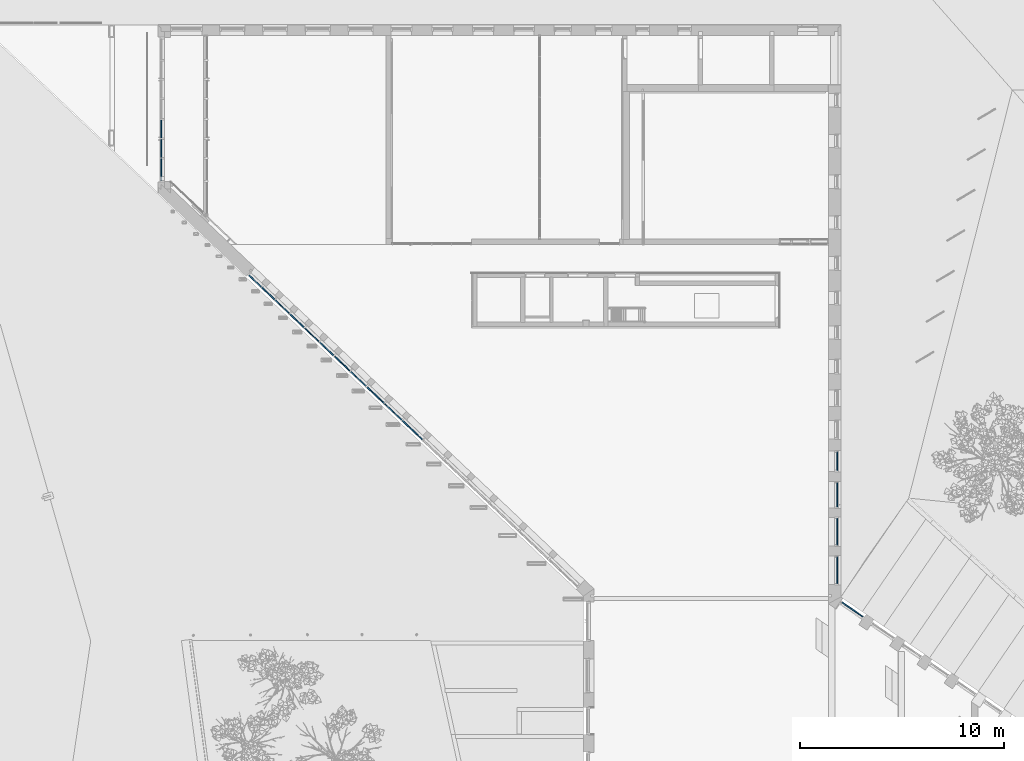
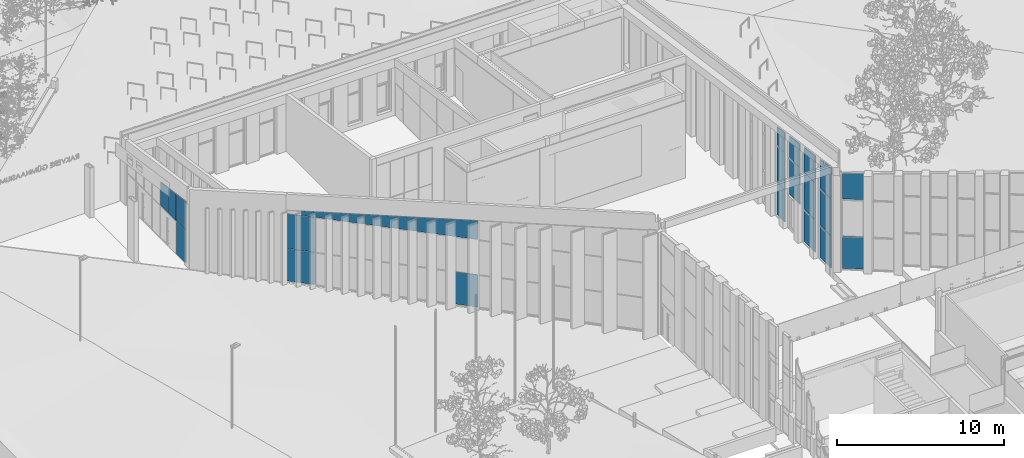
# One storey, part 100 of 246: 32 plates, 7 elements without a shape of their own.
"""IFC2X3 building model written with IfcOpenShell, lengths in millimetres."""

from ifc_helpers import new_model, entity, si_unit, converted_unit, derived_unit, money_unit, direction, frame, origin_with_axes, place, context, subcontext, project, spatial, faceted_brep, material, type_object, element, aggregate, save


model = new_model("IFC2X3")

# Units and contexts
model_context = context("Model", 3, precision=0.01, world=origin_with_axes(), true_north=direction((0.0, 1.0)))
body_context = subcontext(model_context, "Body", "Model", "MODEL_VIEW")
ifc_project = project(units=[si_unit("LENGTHUNIT", "METRE", prefix="MILLI"), si_unit("AREAUNIT", "SQUARE_METRE"), si_unit("VOLUMEUNIT", "CUBIC_METRE"), converted_unit("PLANEANGLEUNIT", "DEGREE", entity("IfcPlaneAngleMeasure", 0.0174532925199), si_unit("PLANEANGLEUNIT", "RADIAN"), dimensions=[0, 0, 0, 0, 0, 0, 0]), si_unit("SOLIDANGLEUNIT", "STERADIAN"), money_unit("EUR"), converted_unit("TIMEUNIT", "Year", entity("IfcTimeMeasure", 31556926.0), si_unit("TIMEUNIT", "SECOND"), dimensions=[0, 0, 1, 0, 0, 0, 0]), si_unit("MASSUNIT", "GRAM", prefix="KILO"), si_unit("THERMODYNAMICTEMPERATUREUNIT", "DEGREE_CELSIUS"), si_unit("LUMINOUSINTENSITYUNIT", "LUMEN"), si_unit("ENERGYUNIT", "JOULE", prefix="MEGA"), derived_unit("THERMALCONDUCTANCEUNIT", [(si_unit("POWERUNIT", "WATT"), 1), (si_unit("LENGTHUNIT", "METRE"), -1), (si_unit("THERMODYNAMICTEMPERATUREUNIT", "KELVIN"), -1)]), derived_unit("SPECIFICHEATCAPACITYUNIT", [(si_unit("ENERGYUNIT", "JOULE"), 1), (si_unit("MASSUNIT", "GRAM", prefix="KILO"), -1), (si_unit("THERMODYNAMICTEMPERATUREUNIT", "KELVIN"), -1)]), derived_unit("MASSDENSITYUNIT", [(si_unit("MASSUNIT", "GRAM", prefix="KILO"), 1), (si_unit("VOLUMEUNIT", "CUBIC_METRE"), -1)])], contexts=[model_context])

# Site, building, storey
site_placement = place(None, origin_with_axes())
site = spatial("IfcSite", under=ifc_project, at=site_placement, Name="L.Koidula tn 11b", CompositionType="ELEMENT")
building_placement = place(site_placement, origin_with_axes())
building = spatial("IfcBuilding", under=site, at=building_placement, Name="Rakvere Riigigümnaasium", CompositionType="ELEMENT")
storey_placement = place(building_placement, origin_with_axes())
storey = spatial("IfcBuildingStorey", under=building, at=storey_placement, Name="1.korrus 0,00", CompositionType="ELEMENT", Elevation=0.0)

# Curtain wall, plates
curtain_wall_type = type_object("IfcCurtainWallType", Name="Curtain Wall Type", PredefinedType="NOTDEFINED")
curtain_wall_1_placement = place(storey_placement, frame((33997.0353268, 45217.6604975, 0.0), z_axis=(0.0, 0.0, 1.0), x_axis=(1.0, 0.0, 0.0)))
curtain_wall_1 = element("IfcCurtainWall", 1, at=curtain_wall_1_placement, inside=storey, type_object=curtain_wall_type, Name="KLF-02")
ifc_material = material(Name="Klaaspakett 3x")
plate_type_1 = type_object("IfcPlateType", Name="Distinct Panel 976 x 802 x 54", PredefinedType="CURTAIN_PANEL")
plate_1_placement = place(curtain_wall_1_placement, frame((-11615.3636669, 11003.7869339, 5351.59965319), z_axis=(0.0, 0.0, 1.0), x_axis=(0.725960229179, -0.687736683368, 0.0)))
plate_1 = element("IfcPlate", 2, at=plate_1_placement, type_object=plate_type_1, material=ifc_material, Name="KLF-25-Klaasid", ObjectType="CURTAIN_PANEL", context=body_context, shape_type="Brep", body=[
    faceted_brep([(487.99999404, 27.0, 412.535720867), (487.99999404, -27.0, 412.535720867), (487.99999404, -27.0, -389.599334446), (487.99999404, 27.0, -389.599334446), (-487.99999404, 27.0, 316.30413872), (-487.99999404, -27.0, 316.30413872), (-487.99999404, -27.0, -389.599334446), (-487.99999404, 27.0, -389.599334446)], [[[0, 1, 2, 3]], [[4, 5, 1, 0]], [[1, 5, 6, 2]], [[3, 2, 6, 7]], [[0, 3, 7, 4]], [[7, 6, 5, 4]]]),
])
plate_type_2 = type_object("IfcPlateType", Name="Distinct Panel 1376 x 2351 x 54", PredefinedType="CURTAIN_PANEL")
plate_2_placement = place(curtain_wall_1_placement, frame((-7404.79433762, 7014.91417036, 1200.00015639), z_axis=(0.0, 0.0, 1.0), x_axis=(0.725960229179, -0.687736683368, 0.0)))
plate_2 = element("IfcPlate", 3, at=plate_2_placement, type_object=plate_type_2, material=ifc_material, Name="KLF-09-Klaasid", ObjectType="CURTAIN_PANEL", context=body_context, shape_type="Brep", body=[
    faceted_brep([(-688.00000208, 27.0, 1188.00015483), (-688.00000208, -27.0, 1188.00015483), (687.999998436, -27.0, 1188.00015483), (687.999998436, 27.0, 1188.00015483), (-688.00000208, 27.0, -1163.00015157), (-688.00000208, -27.0, -1163.00015157), (687.999998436, -27.0, -1163.00015157), (687.999998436, 27.0, -1163.00015157)], [[[0, 1, 2, 3]], [[4, 5, 1, 0]], [[1, 5, 6, 2]], [[3, 2, 6, 7]], [[0, 3, 7, 4]], [[7, 6, 5, 4]]]),
])
plate_type_3 = type_object("IfcPlateType", Name="Distinct Panel 876 x 2526 x 54", PredefinedType="CURTAIN_PANEL")
plate_3_placement = place(curtain_wall_1_placement, frame((-14482.9065721, 13720.3468332, 3675.00031279), z_axis=(0.0, 0.0, 1.0), x_axis=(0.725960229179, -0.687736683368, 0.0)))
plate_3 = element("IfcPlate", 4, at=plate_3_placement, type_object=plate_type_3, material=ifc_material, Name="KLF-52-Klaasid", ObjectType="CURTAIN_PANEL", context=body_context, shape_type="Brep", body=[
    faceted_brep([(-438.000011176, 27.0, 1263.00000447), (-438.000011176, -27.0, 1263.00000447), (438.00000447, -27.0, 1263.00000447), (438.00000447, 27.0, 1263.00000447), (-438.000011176, 27.0, -1263.00000447), (-438.000011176, -27.0, -1263.00000447), (438.00000447, -27.0, -1263.00000447), (438.00000447, 27.0, -1263.00000447)], [[[0, 1, 2, 3]], [[4, 5, 1, 0]], [[1, 5, 6, 2]], [[3, 2, 6, 7]], [[0, 3, 7, 4]], [[7, 6, 5, 4]]]),
])
plate_type_4 = type_object("IfcPlateType", Name="Distinct Panel 876 x 2351 x 54", PredefinedType="CURTAIN_PANEL")
plate_4_placement = place(curtain_wall_1_placement, frame((-14482.9065721, 13720.3468332, 1200.00015639), z_axis=(0.0, 0.0, 1.0), x_axis=(0.725960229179, -0.687736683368, 0.0)))
plate_4 = element("IfcPlate", 5, at=plate_4_placement, type_object=plate_type_4, material=ifc_material, Name="KLF-51-Klaasid", ObjectType="CURTAIN_PANEL", context=body_context, shape_type="Brep", body=[
    faceted_brep([(-438.000008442, 27.0, 1188.00015483), (-438.000008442, -27.0, 1188.00015483), (437.999998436, -27.0, 1188.00015483), (437.999998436, 27.0, 1188.00015483), (-438.000008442, 27.0, -1163.00015157), (-438.000008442, -27.0, -1163.00015157), (437.999998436, -27.0, -1163.00015157), (437.999998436, 27.0, -1163.00015157)], [[[0, 1, 2, 3]], [[4, 5, 1, 0]], [[1, 5, 6, 2]], [[3, 2, 6, 7]], [[0, 3, 7, 4]], [[7, 6, 5, 4]]]),
])
plate_type_5 = type_object("IfcPlateType", Name="Distinct Panel 851 x 2526 x 54", PredefinedType="CURTAIN_PANEL")
plate_5_placement = place(curtain_wall_1_placement, frame((-15136.2986508, 14339.3362531, 3675.00031279), z_axis=(0.0, 0.0, 1.0), x_axis=(0.725960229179, -0.687736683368, 0.0)))
plate_5 = element("IfcPlate", 6, at=plate_5_placement, type_object=plate_type_5, material=ifc_material, Name="KLF-02-Klaasid", ObjectType="CURTAIN_PANEL", context=body_context, shape_type="Brep", body=[
    faceted_brep([(-413.038388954, 27.0, 1263.00000447), (-413.038388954, -27.0, 1263.00000447), (438.038398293, -27.0, 1263.00000447), (438.038398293, 27.0, 1263.00000447), (-413.038388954, 27.0, -1263.00000447), (-413.038388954, -27.0, -1263.00000447), (438.038398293, -27.0, -1263.00000447), (438.038398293, 27.0, -1263.00000447)], [[[0, 1, 2, 3]], [[4, 5, 1, 0]], [[1, 5, 6, 2]], [[3, 2, 6, 7]], [[0, 3, 7, 4]], [[7, 6, 5, 4]]]),
])
plate_type_6 = type_object("IfcPlateType", Name="Distinct Panel 851 x 2351 x 54", PredefinedType="CURTAIN_PANEL")
plate_6_placement = place(curtain_wall_1_placement, frame((-15136.2986508, 14339.3362531, 1200.00015639), z_axis=(0.0, 0.0, 1.0), x_axis=(0.725960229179, -0.687736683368, 0.0)))
plate_6 = element("IfcPlate", 7, at=plate_6_placement, type_object=plate_type_6, material=ifc_material, Name="KLF-48-Klaasid", ObjectType="CURTAIN_PANEL", context=body_context, shape_type="Brep", body=[
    faceted_brep([(-413.038394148, 27.0, 1188.00015483), (-413.038394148, -27.0, 1188.00015483), (438.038392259, -27.0, 1188.00015483), (438.038392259, 27.0, 1188.00015483), (-413.038394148, 27.0, -1163.00015157), (-413.038394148, -27.0, -1163.00015157), (438.038392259, -27.0, -1163.00015157), (438.038392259, 27.0, -1163.00015157)], [[[0, 1, 2, 3]], [[4, 5, 1, 0]], [[1, 5, 6, 2]], [[3, 2, 6, 7]], [[0, 3, 7, 4]], [[7, 6, 5, 4]]]),
])
plate_type_7 = type_object("IfcPlateType", Name="Distinct Panel 976 x 704 x 54", PredefinedType="CURTAIN_PANEL")
plate_7_placement = place(curtain_wall_1_placement, frame((-12341.323896, 11691.5236173, 5302.30069099), z_axis=(0.0, 0.0, 1.0), x_axis=(0.725960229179, -0.687736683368, 0.0)))
plate_7 = element("IfcPlate", 8, at=plate_7_placement, type_object=plate_type_7, material=ifc_material, Name="KLF-45-Klaasid", ObjectType="CURTAIN_PANEL", context=body_context, shape_type="Brep", body=[
    faceted_brep([(487.99999404, 27.0, 363.23676447), (487.99999404, -27.0, 363.23676447), (487.99999404, -27.0, -340.300372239), (487.99999404, 27.0, -340.300372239), (-487.99999404, 27.0, 267.005182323), (-487.99999404, -27.0, 267.005182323), (-487.99999404, -27.0, -340.300372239), (-487.99999404, 27.0, -340.300372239)], [[[0, 1, 2, 3]], [[4, 5, 1, 0]], [[1, 5, 6, 2]], [[3, 2, 6, 7]], [[0, 3, 7, 4]], [[7, 6, 5, 4]]]),
])
plate_type_8 = type_object("IfcPlateType", Name="Distinct Panel 976 x 605 x 54", PredefinedType="CURTAIN_PANEL")
plate_8_placement = place(curtain_wall_1_placement, frame((-13067.2841252, 12379.2603006, 5253.00172878), z_axis=(0.0, 0.0, 1.0), x_axis=(0.725960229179, -0.687736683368, 0.0)))
plate_8 = element("IfcPlate", 9, at=plate_8_placement, type_object=plate_type_8, material=ifc_material, Name="KLF-03-Klaasid", ObjectType="CURTAIN_PANEL", context=body_context, shape_type="Brep", body=[
    faceted_brep([(487.99999404, 27.0, 313.937793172), (487.99999404, -27.0, 313.937793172), (487.99999404, -27.0, -291.001410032), (487.99999404, 27.0, -291.001410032), (-487.99999404, 27.0, 217.706211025), (-487.99999404, -27.0, 217.706211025), (-487.99999404, -27.0, -291.001410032), (-487.99999404, 27.0, -291.001410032)], [[[0, 1, 2, 3]], [[4, 5, 1, 0]], [[1, 5, 6, 2]], [[3, 2, 6, 7]], [[0, 3, 7, 4]], [[7, 6, 5, 4]]]),
])
plate_type_9 = type_object("IfcPlateType", Name="Distinct Panel 976 x 506 x 54", PredefinedType="CURTAIN_PANEL")
plate_9_placement = place(curtain_wall_1_placement, frame((-13793.2443544, 13066.996984, 5203.70276657), z_axis=(0.0, 0.0, 1.0), x_axis=(0.725960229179, -0.687736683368, 0.0)))
plate_9 = element("IfcPlate", 10, at=plate_9_placement, type_object=plate_type_9, material=ifc_material, Name="KLF-06-Klaasid", ObjectType="CURTAIN_PANEL", context=body_context, shape_type="Brep", body=[
    faceted_brep([(487.99999404, 27.0, 264.638836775), (487.99999404, -27.0, 264.638836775), (487.99999404, -27.0, -241.702447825), (487.99999404, 27.0, -241.702447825), (-487.99999404, 27.0, 168.407254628), (-487.99999404, -27.0, 168.407254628), (-487.99999404, -27.0, -241.702447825), (-487.99999404, 27.0, -241.702447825)], [[[0, 1, 2, 3]], [[4, 5, 1, 0]], [[1, 5, 6, 2]], [[3, 2, 6, 7]], [[0, 3, 7, 4]], [[7, 6, 5, 4]]]),
])
plate_type_10 = type_object("IfcPlateType", Name="Distinct Panel 876 x 408 x 54", PredefinedType="CURTAIN_PANEL")
plate_10_placement = place(curtain_wall_1_placement, frame((-14482.9065721, 13720.3468332, 5156.86875247), z_axis=(0.0, 0.0, 1.0), x_axis=(0.725960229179, -0.687736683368, 0.0)))
plate_10 = element("IfcPlate", 11, at=plate_10_placement, type_object=plate_type_10, material=ifc_material, Name="KLF-05-Klaasid", ObjectType="CURTAIN_PANEL", context=body_context, shape_type="Brep", body=[
    faceted_brep([(438.0, 27.0, 212.874912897), (438.0, -27.0, 212.874912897), (438.0, -27.0, -194.868439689), (438.0, 27.0, -194.868439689), (-438.0, 27.0, 126.503140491), (-438.0, -27.0, 126.503140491), (-438.0, -27.0, -194.868439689), (-438.0, 27.0, -194.868439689)], [[[0, 1, 2, 3]], [[4, 5, 1, 0]], [[1, 5, 6, 2]], [[3, 2, 6, 7]], [[0, 3, 7, 4]], [[7, 6, 5, 4]]]),
])
plate_type_11 = type_object("IfcPlateType", Name="Distinct Panel 1176 x 1137 x 54", PredefinedType="CURTAIN_PANEL")
plate_11_placement = place(curtain_wall_1_placement, frame((-9219.69491057, 8734.25587878, 5514.28622848), z_axis=(0.0, 0.0, 1.0), x_axis=(0.725960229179, -0.687736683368, 0.0)))
plate_11 = element("IfcPlate", 12, at=plate_11_placement, type_object=plate_type_11, material=ifc_material, Name="KLF-18-Klaasid", ObjectType="CURTAIN_PANEL", context=body_context, shape_type="Brep", body=[
    faceted_brep([(588.0, 27.0, 585.082083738), (588.0, -27.0, 585.082083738), (588.0, -27.0, -552.28591569), (588.0, 27.0, -552.28591569), (-588.0, 27.0, 469.13091787), (-588.0, -27.0, 469.13091787), (-588.0, -27.0, -552.28591569), (-588.0, 27.0, -552.28591569)], [[[0, 1, 2, 3]], [[4, 5, 1, 0]], [[1, 5, 6, 2]], [[3, 2, 6, 7]], [[0, 3, 7, 4]], [[7, 6, 5, 4]]]),
])
plate_type_12 = type_object("IfcPlateType", Name="Distinct Panel 1076 x 1019 x 54", PredefinedType="CURTAIN_PANEL")
plate_12_placement = place(curtain_wall_1_placement, frame((-10054.5491741, 9525.15306465, 5457.59242194), z_axis=(0.0, 0.0, 1.0), x_axis=(0.725960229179, -0.687736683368, 0.0)))
plate_12 = element("IfcPlate", 13, at=plate_12_placement, type_object=plate_type_12, material=ifc_material, Name="KLF-15-Klaasid", ObjectType="CURTAIN_PANEL", context=body_context, shape_type="Brep", body=[
    faceted_brep([(538.0, 27.0, 523.45837603), (538.0, -27.0, 523.45837603), (538.0, -27.0, -495.592109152), (538.0, 27.0, -495.592109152), (-538.0, 27.0, 417.367010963), (-538.0, -27.0, 417.367010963), (-538.0, -27.0, -495.592109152), (-538.0, 27.0, -495.592109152)], [[[0, 1, 2, 3]], [[4, 5, 1, 0]], [[1, 5, 6, 2]], [[3, 2, 6, 7]], [[0, 3, 7, 4]], [[7, 6, 5, 4]]]),
])
plate_type_13 = type_object("IfcPlateType", Name="Distinct Panel 1076 x 911 x 54", PredefinedType="CURTAIN_PANEL")
plate_13_placement = place(curtain_wall_1_placement, frame((-10853.1054262, 10281.6634164, 5403.36356351), z_axis=(0.0, 0.0, 1.0), x_axis=(0.725960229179, -0.687736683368, 0.0)))
plate_13 = element("IfcPlate", 14, at=plate_13_placement, type_object=plate_type_13, material=ifc_material, Name="KLF-12-Klaasid", ObjectType="CURTAIN_PANEL", context=body_context, shape_type="Brep", body=[
    faceted_brep([(538.0, 27.0, 469.229523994), (538.0, -27.0, 469.229523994), (538.0, -27.0, -441.363250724), (538.0, 27.0, -441.363250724), (-538.0, 27.0, 363.138158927), (-538.0, -27.0, 363.138158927), (-538.0, -27.0, -441.363250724), (-538.0, 27.0, -441.363250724)], [[[0, 1, 2, 3]], [[4, 5, 1, 0]], [[1, 5, 6, 2]], [[3, 2, 6, 7]], [[0, 3, 7, 4]], [[7, 6, 5, 4]]]),
])
plate_type_14 = type_object("IfcPlateType", Name="Distinct Panel 1176 x 1256 x 54", PredefinedType="CURTAIN_PANEL")
plate_14_placement = place(curtain_wall_1_placement, frame((-8348.54263556, 7908.97185874, 5573.44498312), z_axis=(0.0, 0.0, 1.0), x_axis=(0.725960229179, -0.687736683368, 0.0)))
plate_14 = element("IfcPlate", 15, at=plate_14_placement, type_object=plate_type_14, material=ifc_material, Name="KLF-21-Klaasid", ObjectType="CURTAIN_PANEL", context=body_context, shape_type="Brep", body=[
    faceted_brep([(588.000005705, 27.0, 644.24083555), (588.000005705, -27.0, 644.24083555), (588.000005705, -27.0, -611.444676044), (588.000005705, 27.0, -611.444676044), (-587.999999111, 27.0, 528.289662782), (-587.999999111, -27.0, 528.289662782), (-587.999999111, -27.0, -611.444676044), (-587.999999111, 27.0, -611.444676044)], [[[0, 1, 2, 3]], [[4, 5, 1, 0]], [[1, 5, 6, 2]], [[3, 2, 6, 7]], [[0, 3, 7, 4]], [[7, 6, 5, 4]]]),
])
plate_type_15 = type_object("IfcPlateType", Name="Distinct Panel 1376 x 1394 x 54", PredefinedType="CURTAIN_PANEL")
plate_15_placement = place(curtain_wall_1_placement, frame((-7404.79433762, 7014.91417036, 5637.53363399), z_axis=(0.0, 0.0, 1.0), x_axis=(0.725960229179, -0.687736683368, 0.0)))
plate_15 = element("IfcPlate", 16, at=plate_15_placement, type_object=plate_type_15, material=ifc_material, Name="KLF-24-Klaasid", ObjectType="CURTAIN_PANEL", context=body_context, shape_type="Brep", body=[
    faceted_brep([(688.000005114, 27.0, 718.189272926), (688.000005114, -27.0, 718.189272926), (688.000005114, -27.0, -675.533326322), (688.000005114, 27.0, -675.533326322), (-687.999996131, 27.0, 582.518538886), (-687.999996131, -27.0, 582.518538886), (-687.999996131, -27.0, -675.533326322), (-687.999996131, 27.0, -675.533326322)], [[[0, 1, 2, 3]], [[4, 5, 1, 0]], [[1, 5, 6, 2]], [[3, 2, 6, 7]], [[0, 3, 7, 4]], [[7, 6, 5, 4]]]),
])
aggregate(curtain_wall_1, [plate_1, plate_2, plate_3, plate_4, plate_5, plate_6, plate_7, plate_8, plate_9, plate_10, plate_11, plate_12, plate_13, plate_14, plate_15])

curtain_wall_2_placement = place(storey_placement, frame((48188.9005026, 43426.6609741, 465.0), z_axis=(0.0, 0.0, 1.0), x_axis=(1.0, 0.0, 0.0)))
curtain_wall_2 = element("IfcCurtainWall", 17, at=curtain_wall_2_placement, inside=storey, type_object=curtain_wall_type, Name="KLF-06-29")
plate_type_16 = type_object("IfcPlateType", Name="Distinct Panel 1266 x 1892 x 54", PredefinedType="CURTAIN_PANEL")
plate_16_placement = place(curtain_wall_2_placement, frame((3.81169584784e-05, -2.61435388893e-05, 6089.41930168), z_axis=(0.0, 0.0, 1.0), x_axis=(-0.824666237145, 0.565619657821, 0.0)))
plate_16 = element("IfcPlate", 18, at=plate_16_placement, type_object=plate_type_16, material=ifc_material, Name="KLF-06-29-Klaasid", ObjectType="CURTAIN_PANEL", context=body_context, shape_type="Brep", body=[
    faceted_brep([(-632.999922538, 27.0, 989.977350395), (-632.999922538, -27.0, 989.977350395), (632.999905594, -27.0, 914.730660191), (632.999905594, 27.0, 914.730660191), (-632.999922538, 27.0, -977.419288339), (-632.999922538, -27.0, -977.419288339), (632.999935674, -27.0, -977.419288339), (632.999935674, 27.0, -977.419288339)], [[[0, 1, 2, 3]], [[4, 5, 1, 0]], [[1, 5, 6, 2]], [[3, 2, 6, 7]], [[0, 3, 7, 4]], [[7, 6, 5, 4]]]),
])
plate_type_17 = type_object("IfcPlateType", Name="Distinct Panel 1266 x 2351 x 54", PredefinedType="CURTAIN_PANEL")
plate_17_placement = place(curtain_wall_2_placement, frame((-4.7989736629e-05, 3.29150608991e-05, 1200.0), z_axis=(0.0, 0.0, 1.0), x_axis=(-0.824666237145, 0.565619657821, 0.0)))
plate_17 = element("IfcPlate", 19, at=plate_17_placement, type_object=plate_type_17, material=ifc_material, Name="KLF-06-29-Klaasid", ObjectType="CURTAIN_PANEL", context=body_context, shape_type="Brep", body=[
    faceted_brep([(-632.999989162, 27.0, 1188.0), (-632.999989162, -27.0, 1188.0), (632.999939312, -27.0, 1188.0), (632.999939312, 27.0, 1188.0), (-632.999989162, 27.0, -1163.0), (-632.999989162, -27.0, -1163.0), (633.000046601, -27.0, -1163.0), (633.000046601, 27.0, -1163.0)], [[[0, 1, 2, 3]], [[4, 5, 1, 0]], [[1, 5, 6, 2]], [[3, 2, 6, 7]], [[0, 3, 7, 4]], [[7, 6, 5, 4]]]),
])
aggregate(curtain_wall_2, [plate_16, plate_17])

# Curtain wall, plate
curtain_wall_3_placement = place(storey_placement, frame((47434.0002355, 45350.4555374, 5.21984029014), z_axis=(0.0, 0.0, 1.0), x_axis=(1.0, 0.0, 0.0)))
curtain_wall_3 = element("IfcCurtainWall", 20, at=curtain_wall_3_placement, inside=storey, type_object=curtain_wall_type, Name="KLF-07-01")
plate_type_18 = type_object("IfcPlateType", Name="Distinct Panel 1326 x 2346 x 54", PredefinedType="CURTAIN_PANEL")
plate_18_placement = place(curtain_wall_3_placement, frame((0.0, 0.0, 1197.39007126), z_axis=(0.0, 0.0, 1.0), x_axis=(3.45704454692e-07, 1.0, 0.0)))
plate_18 = element("IfcPlate", 21, at=plate_18_placement, type_object=plate_type_18, material=ifc_material, Name="KLF-07-01-Klaasid", ObjectType="CURTAIN_PANEL", context=body_context, shape_type="Brep", body=[
    faceted_brep([(-662.99996856, 27.0, 1185.39010181), (-662.99996856, -27.0, 1185.39010181), (663.000001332, -27.0, 1185.39010181), (663.000001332, 27.0, 1185.39010181), (-663.00003993, 27.0, -1160.39009096), (-663.00003993, -27.0, -1160.39009096), (663.000001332, -27.0, -1160.39009096), (663.000001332, 27.0, -1160.39009096)], [[[0, 1, 2, 3]], [[4, 5, 1, 0]], [[1, 5, 6, 2]], [[3, 2, 6, 7]], [[0, 3, 7, 4]], [[7, 6, 5, 4]]]),
])

curtain_wall_4_placement = place(storey_placement, frame((47434.0004775, 47250.4555065, 5.1807707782), z_axis=(0.0, 0.0, 1.0), x_axis=(1.0, 0.0, 0.0)))
curtain_wall_4 = element("IfcCurtainWall", 22, at=curtain_wall_4_placement, inside=storey, type_object=curtain_wall_type, Name="KLF-07-02")
plate_19_placement = place(curtain_wall_4_placement, frame((0.0, 1.68795182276e-05, 1197.40962901), z_axis=(0.0, 0.0, 1.0), x_axis=(0.0, 1.0, 0.0)))
plate_19 = element("IfcPlate", 23, at=plate_19_placement, type_object=plate_type_18, material=ifc_material, Name="KLF-07-02-Klaasid", ObjectType="CURTAIN_PANEL", context=body_context, shape_type="Brep", body=[
    faceted_brep([(-663.000011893, 27.0, 1185.40959618), (-663.000011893, -27.0, 1185.40959618), (663.000005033, -27.0, 1185.40959618), (663.000005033, 27.0, 1185.40959618), (-662.999976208, 27.0, -1160.40965864), (-662.999976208, -27.0, -1160.40965864), (663.000005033, -27.0, -1160.40955158), (663.000005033, 27.0, -1160.40955158)], [[[0, 1, 2, 3]], [[4, 5, 1, 0]], [[1, 5, 6, 2]], [[3, 2, 6, 7]], [[0, 3, 7, 4]], [[7, 6, 5, 4]]]),
])

# Plate
plate_type_19 = type_object("IfcPlateType", Name="Distinct Panel 1326 x 2068 x 54", PredefinedType="CURTAIN_PANEL")
plate_20_placement = place(curtain_wall_3_placement, frame((0.0, -2.86842478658e-05, 6200.41915791), z_axis=(0.0, 0.0, 1.0), x_axis=(3.45704454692e-07, 1.0, 0.0)))
plate_20 = element("IfcPlate", 24, at=plate_20_placement, type_object=plate_type_19, material=ifc_material, Name="KLF-07-01-Klaasid", ObjectType="CURTAIN_PANEL", context=body_context, shape_type="Brep", body=[
    faceted_brep([(-662.999925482, 27.0, 1162.65954438), (-662.999925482, -27.0, 1162.65954438), (662.999904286, -27.0, 973.872249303), (662.999904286, 27.0, 973.872249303), (-662.999925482, 27.0, -1093.63901268), (-662.999925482, -27.0, -1093.63901268), (662.999938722, -27.0, -1093.63901268), (662.999938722, 27.0, -1093.63901268)], [[[0, 1, 2, 3]], [[4, 5, 1, 0]], [[1, 5, 6, 2]], [[3, 2, 6, 7]], [[0, 3, 7, 4]], [[7, 6, 5, 4]]]),
])

plate_type_20 = type_object("IfcPlateType", Name="Distinct Panel 1326 x 2676 x 54", PredefinedType="CURTAIN_PANEL")
plate_21_placement = place(curtain_wall_3_placement, frame((0.0, 2.23820961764e-07, 3744.78015971), z_axis=(0.0, 0.0, 1.0), x_axis=(3.45704454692e-07, 1.0, 0.0)))
plate_21 = element("IfcPlate", 25, at=plate_21_placement, type_object=plate_type_20, material=ifc_material, Name="KLF-07-01-Klaasid", ObjectType="CURTAIN_PANEL", context=body_context, shape_type="Brep", body=[
    faceted_brep([(-662.999943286, 27.0, 1338.00001341), (-662.999943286, -27.0, 1338.00001341), (662.999922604, -27.0, 1338.00001341), (662.999922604, 27.0, 1338.00001341), (-662.999983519, 27.0, -1338.00001341), (-662.999983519, -27.0, -1338.00001341), (663.00000307, -27.0, -1338.00001341), (663.00000307, 27.0, -1338.00001341)], [[[0, 1, 2, 3]], [[4, 5, 1, 0]], [[1, 5, 6, 2]], [[3, 2, 6, 7]], [[0, 3, 7, 4]], [[7, 6, 5, 4]]]),
])

aggregate(curtain_wall_3, [plate_18, plate_20, plate_21])

plate_22_placement = place(curtain_wall_4_placement, frame((0.0, 5.50644330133e-06, 3744.81922922), z_axis=(0.0, 0.0, 1.0), x_axis=(0.0, 1.0, 0.0)))
plate_22 = element("IfcPlate", 26, at=plate_22_placement, type_object=plate_type_20, material=ifc_material, Name="KLF-07-02-Klaasid", ObjectType="CURTAIN_PANEL", context=body_context, shape_type="Brep", body=[
    faceted_brep([(-663.000011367, 27.0, 1338.00001341), (-663.000011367, -27.0, 1338.00001341), (663.000015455, -27.0, 1338.00001341), (663.000015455, 27.0, 1338.00001341), (-663.000011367, 27.0, -1338.00001341), (-663.000011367, -27.0, -1338.00001341), (663.000015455, -27.0, -1338.00001341), (663.000015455, 27.0, -1338.00001341)], [[[0, 1, 2, 3]], [[4, 5, 1, 0]], [[1, 5, 6, 2]], [[3, 2, 6, 7]], [[0, 3, 7, 4]], [[7, 6, 5, 4]]]),
])

plate_type_21 = type_object("IfcPlateType", Name="Distinct Panel 1326 x 1797 x 54", PredefinedType="CURTAIN_PANEL")
plate_23_placement = place(curtain_wall_4_placement, frame((0.0, 0.0, 6065.2034093), z_axis=(0.0, 0.0, 1.0), x_axis=(0.0, 1.0, 0.0)))
plate_23 = element("IfcPlate", 27, at=plate_23_placement, type_object=plate_type_21, material=ifc_material, Name="KLF-07-02-Klaasid", ObjectType="CURTAIN_PANEL", context=body_context, shape_type="Brep", body=[
    faceted_brep([(-663.000031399, 27.0, 1027.40463087), (-663.000031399, -27.0, 1027.40463087), (663.000018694, -27.0, 838.617511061), (663.000018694, 27.0, 838.617511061), (-663.000031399, 27.0, -958.384165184), (-663.000031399, -27.0, -958.384165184), (663.000018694, -27.0, -958.384165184), (663.000018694, 27.0, -958.384165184)], [[[0, 1, 2, 3]], [[4, 5, 1, 0]], [[1, 5, 6, 2]], [[3, 2, 6, 7]], [[0, 3, 7, 4]], [[7, 6, 5, 4]]]),
])

aggregate(curtain_wall_4, [plate_23, plate_19, plate_22])

# Curtain wall, plates
curtain_wall_5_placement = place(storey_placement, frame((47434.0004775, 49050.4555635, 0.0), z_axis=(0.0, 0.0, 1.0), x_axis=(1.0, 0.0, 0.0)))
curtain_wall_5 = element("IfcCurtainWall", 28, at=curtain_wall_5_placement, inside=storey, type_object=curtain_wall_type, Name="KLF-07-03")
plate_type_22 = type_object("IfcPlateType", Name="Distinct Panel 1226 x 2676 x 54", PredefinedType="CURTAIN_PANEL")
plate_24_placement = place(curtain_wall_5_placement, frame((0.0, 0.0, 3750.0), z_axis=(0.0, 0.0, 1.0), x_axis=(0.0, 1.0, 0.0)))
plate_24 = element("IfcPlate", 29, at=plate_24_placement, type_object=plate_type_22, material=ifc_material, Name="KLF-07-03-Klaasid", ObjectType="CURTAIN_PANEL", context=body_context, shape_type="Brep", body=[
    faceted_brep([(-612.9999232, 27.0, 1338.00001341), (-612.9999232, -27.0, 1338.00001341), (612.99994716, -27.0, 1338.00001341), (612.99994716, 27.0, 1338.00001341), (-612.999963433, 27.0, -1338.00001341), (-612.999963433, -27.0, -1338.00001341), (612.99994716, -27.0, -1338.00001341), (612.99994716, 27.0, -1338.00001341)], [[[0, 1, 2, 3]], [[4, 5, 1, 0]], [[1, 5, 6, 2]], [[3, 2, 6, 7]], [[0, 3, 7, 4]], [[7, 6, 5, 4]]]),
])
plate_type_23 = type_object("IfcPlateType", Name="Distinct Panel 1226 x 1548 x 54", PredefinedType="CURTAIN_PANEL")
plate_25_placement = place(curtain_wall_5_placement, frame((0.0, 1.13949738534e-06, 5942.24805488), z_axis=(0.0, 0.0, 1.0), x_axis=(0.0, 1.0, 0.0)))
plate_25 = element("IfcPlate", 30, at=plate_25_placement, type_object=plate_type_23, material=ifc_material, Name="KLF-07-03-Klaasid", ObjectType="CURTAIN_PANEL", context=body_context, shape_type="Brep", body=[
    faceted_brep([(-612.999915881, 27.0, 892.149850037), (-612.999915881, -27.0, 892.149850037), (612.999906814, -27.0, 717.600021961), (612.999906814, 27.0, 717.600021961), (-612.999915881, 27.0, -830.248048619), (-612.999915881, -27.0, -830.248048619), (612.999933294, -27.0, -830.248048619), (612.999933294, 27.0, -830.248048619)], [[[0, 1, 2, 3]], [[4, 5, 1, 0]], [[1, 5, 6, 2]], [[3, 2, 6, 7]], [[0, 3, 7, 4]], [[7, 6, 5, 4]]]),
])
aggregate(curtain_wall_5, [plate_24, plate_25])

curtain_wall_6_placement = place(storey_placement, frame((47434.0004775, 50700.4459651, -5.70142248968e-05), z_axis=(0.0, 0.0, 1.0), x_axis=(1.0, 0.0, 0.0)))
curtain_wall_6 = element("IfcCurtainWall", 31, at=curtain_wall_6_placement, inside=storey, type_object=curtain_wall_type, Name="KLF-07-04")
plate_type_24 = type_object("IfcPlateType", Name="Distinct Panel 926 x 1334 x 54", PredefinedType="CURTAIN_PANEL")
plate_26_placement = place(curtain_wall_6_placement, frame((0.0, 0.0, 5824.79069973), z_axis=(0.0, 0.0, 1.0), x_axis=(0.0, 1.0, 0.0)))
plate_26 = element("IfcPlate", 32, at=plate_26_placement, type_object=plate_type_24, material=ifc_material, Name="KLF-07-04-Klaasid", ObjectType="CURTAIN_PANEL", context=body_context, shape_type="Brep", body=[
    faceted_brep([(-462.999981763, 27.0, 753.336463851), (-462.999981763, -27.0, 753.336463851), (463.000000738, -27.0, 621.498586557), (463.000000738, 27.0, 621.498586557), (-462.999981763, 27.0, -712.790636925), (-462.999981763, -27.0, -712.790636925), (463.000000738, -27.0, -712.790636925), (463.000000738, 27.0, -712.790636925)], [[[0, 1, 2, 3]], [[4, 5, 1, 0]], [[1, 5, 6, 2]], [[3, 2, 6, 7]], [[0, 3, 7, 4]], [[7, 6, 5, 4]]]),
])
plate_type_25 = type_object("IfcPlateType", Name="Distinct Panel 926 x 2676 x 54", PredefinedType="CURTAIN_PANEL")
plate_27_placement = place(curtain_wall_6_placement, frame((0.0, -3.10618872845e-05, 3750.00005701), z_axis=(0.0, 0.0, 1.0), x_axis=(0.0, 1.0, 0.0)))
plate_27 = element("IfcPlate", 33, at=plate_27_placement, type_object=plate_type_25, material=ifc_material, Name="KLF-07-04-Klaasid", ObjectType="CURTAIN_PANEL", context=body_context, shape_type="Brep", body=[
    faceted_brep([(-462.999978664, 27.0, 1338.00001341), (-462.999978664, -27.0, 1338.00001341), (463.000025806, -27.0, 1338.00001341), (463.000025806, 27.0, 1338.00001341), (-463.000099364, 27.0, -1338.00001341), (-463.000099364, -27.0, -1338.00001341), (463.000025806, -27.0, -1338.00001341), (463.000025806, 27.0, -1338.00001341)], [[[0, 1, 2, 3]], [[4, 5, 1, 0]], [[1, 5, 6, 2]], [[3, 2, 6, 7]], [[0, 3, 7, 4]], [[7, 6, 5, 4]]]),
])
plate_type_26 = type_object("IfcPlateType", Name="Distinct Panel 926 x 2351 x 54", PredefinedType="CURTAIN_PANEL")
plate_28_placement = place(curtain_wall_6_placement, frame((0.0, -8.66993588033e-05, 1200.00002851), z_axis=(0.0, 0.0, 1.0), x_axis=(0.0, 1.0, 0.0)))
plate_28 = element("IfcPlate", 34, at=plate_28_placement, type_object=plate_type_26, material=ifc_material, Name="KLF-07-04-Klaasid", ObjectType="CURTAIN_PANEL", context=body_context, shape_type="Brep", body=[
    faceted_brep([(-463.000017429, 27.0, 1188.00002822), (-463.000017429, -27.0, 1188.00002822), (463.000076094, -27.0, 1188.00002822), (463.000076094, 27.0, 1188.00002822), (-463.000124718, 27.0, -1163.00002763), (-463.000124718, -27.0, -1163.00002763), (463.000076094, -27.0, -1163.00002763), (463.000076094, 27.0, -1163.00002763)], [[[0, 1, 2, 3]], [[4, 5, 1, 0]], [[1, 5, 6, 2]], [[3, 2, 6, 7]], [[0, 3, 7, 4]], [[7, 6, 5, 4]]]),
])
aggregate(curtain_wall_6, [plate_26, plate_27, plate_28])

curtain_wall_7_placement = place(storey_placement, frame((14260.0344055, 70945.4519938, -0.000165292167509), z_axis=(0.0, 0.0, 1.0), x_axis=(1.0, 0.0, 0.0)))
curtain_wall_7 = element("IfcCurtainWall", 35, at=curtain_wall_7_placement, inside=storey, type_object=curtain_wall_type, Name="KLF-01A")
plate_type_27 = type_object("IfcPlateType", Name="Distinct Panel 926 x 1711 x 54", PredefinedType="CURTAIN_PANEL")
plate_29_placement = place(curtain_wall_7_placement, frame((0.0, -3935.0, 3313.36144122), z_axis=(0.0, 0.0, 1.0), x_axis=(0.0, 1.0, 0.0)))
plate_29 = element("IfcPlate", 36, at=plate_29_placement, type_object=plate_type_27, material=ifc_material, Name="KLF-01-Klaasid", ObjectType="CURTAIN_PANEL", context=body_context, shape_type="Brep", body=[
    faceted_brep([(-463.000005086, -27.0, 941.887044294), (462.999996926, -27.0, 810.089572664), (462.999996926, 27.0, 810.089572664), (-463.000005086, 27.0, 941.887044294), (-463.000005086, -27.0, -901.361177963), (462.999996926, -27.0, -901.361177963), (462.999996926, 27.0, -901.361177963), (-463.000005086, 27.0, -901.361177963)], [[[0, 1, 2, 3]], [[0, 4, 5, 1]], [[1, 5, 6, 2]], [[3, 2, 6, 7]], [[4, 0, 3, 7]], [[5, 4, 7, 6]]]),
])
plate_type_28 = type_object("IfcPlateType", Name="Distinct Panel 926 x 1847 x 54", PredefinedType="CURTAIN_PANEL")
plate_30_placement = place(curtain_wall_7_placement, frame((0.0, -4885.0, 3380.96817093), z_axis=(0.0, 0.0, 1.0), x_axis=(0.0, 1.0, 0.0)))
plate_30 = element("IfcPlate", 37, at=plate_30_placement, type_object=plate_type_28, material=ifc_material, Name="KLF-01-Klaasid", ObjectType="CURTAIN_PANEL", context=body_context, shape_type="Brep", body=[
    faceted_brep([(-463.000010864, -27.0, 1009.49382678), (462.999990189, -27.0, 877.696253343), (462.999990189, 27.0, 877.696253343), (-463.000010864, 27.0, 1009.49382678), (-463.000010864, -27.0, -968.967900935), (462.999990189, -27.0, -968.967900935), (462.999990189, 27.0, -968.967900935), (-463.000010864, 27.0, -968.967900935)], [[[0, 1, 2, 3]], [[0, 4, 5, 1]], [[1, 5, 6, 2]], [[3, 2, 6, 7]], [[4, 0, 3, 7]], [[5, 4, 7, 6]]]),
])
plate_type_29 = type_object("IfcPlateType", Name="Distinct Panel 888 x 1982 x 54", PredefinedType="CURTAIN_PANEL")
plate_31_placement = place(curtain_wall_7_placement, frame((0.0, -6046.70249865, 3463.64074468), z_axis=(0.0, 0.0, 1.0), x_axis=(0.0, 1.0, 0.0)))
plate_31 = element("IfcPlate", 38, at=plate_31_placement, type_object=plate_type_29, material=ifc_material, Name="KLF-01-Klaasid", ObjectType="CURTAIN_PANEL", context=body_context, shape_type="Brep", body=[
    faceted_brep([(-436.40489609, -27.0, 1088.38115853), (-218.511155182, -27.0, 1057.36832494), (-218.511155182, 27.0, 1057.36832494), (-436.40489609, 27.0, 1088.38115853), (-436.405125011, -27.0, -1051.64046958), (-213.297508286, -27.0, -1051.64046958), (674.702483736, -27.0, -1051.64046958), (674.702483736, -27.0, 930.23718327), (674.702483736, 27.0, 930.23718327), (674.702483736, 27.0, -1051.64046958), (-213.297508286, 27.0, -1051.64046958), (-436.405125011, 27.0, -1051.64046958)], [[[0, 1, 2, 3]], [[0, 4, 5, 6, 7, 1]], [[1, 7, 8, 2]], [[3, 2, 8, 9, 10, 11]], [[4, 0, 3, 11]], [[5, 4, 11, 10]], [[6, 5, 10, 9]], [[7, 6, 9, 8]]]),
])
plate_type_30 = type_object("IfcPlateType", Name="Distinct Panel 888 x 2351 x 54", PredefinedType="CURTAIN_PANEL")
plate_32_placement = place(curtain_wall_7_placement, frame((0.0, -6046.70253802, 1200.00013009), z_axis=(0.0, 0.0, 1.0), x_axis=(0.0, 1.0, 0.0)))
plate_32 = element("IfcPlate", 39, at=plate_32_placement, type_object=plate_type_30, material=ifc_material, Name="KLF-01-Klaasid", ObjectType="CURTAIN_PANEL", context=body_context, shape_type="Brep", body=[
    faceted_brep([(-436.40512254, -27.0, 1188.00012879), (-213.297452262, -27.0, 1188.00012879), (-213.297452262, 27.0, 1188.00012879), (-436.40512254, 27.0, 1188.00012879), (-436.40512254, -27.0, -1163.00012608), (-213.297452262, -27.0, -1163.00012608), (674.702536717, -27.0, -1163.00012608), (674.702536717, -27.0, 1188.00012879), (674.702536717, 27.0, 1188.00012879), (674.702536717, 27.0, -1163.00012608), (-213.297452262, 27.0, -1163.00012608), (-436.40512254, 27.0, -1163.00012608)], [[[0, 1, 2, 3]], [[0, 4, 5, 6, 7, 1]], [[1, 7, 8, 2]], [[3, 2, 8, 9, 10, 11]], [[4, 0, 3, 11]], [[5, 4, 11, 10]], [[6, 5, 10, 9]], [[7, 6, 9, 8]]]),
])
aggregate(curtain_wall_7, [plate_29, plate_30, plate_31, plate_32])

save(model, "model.ifc")
